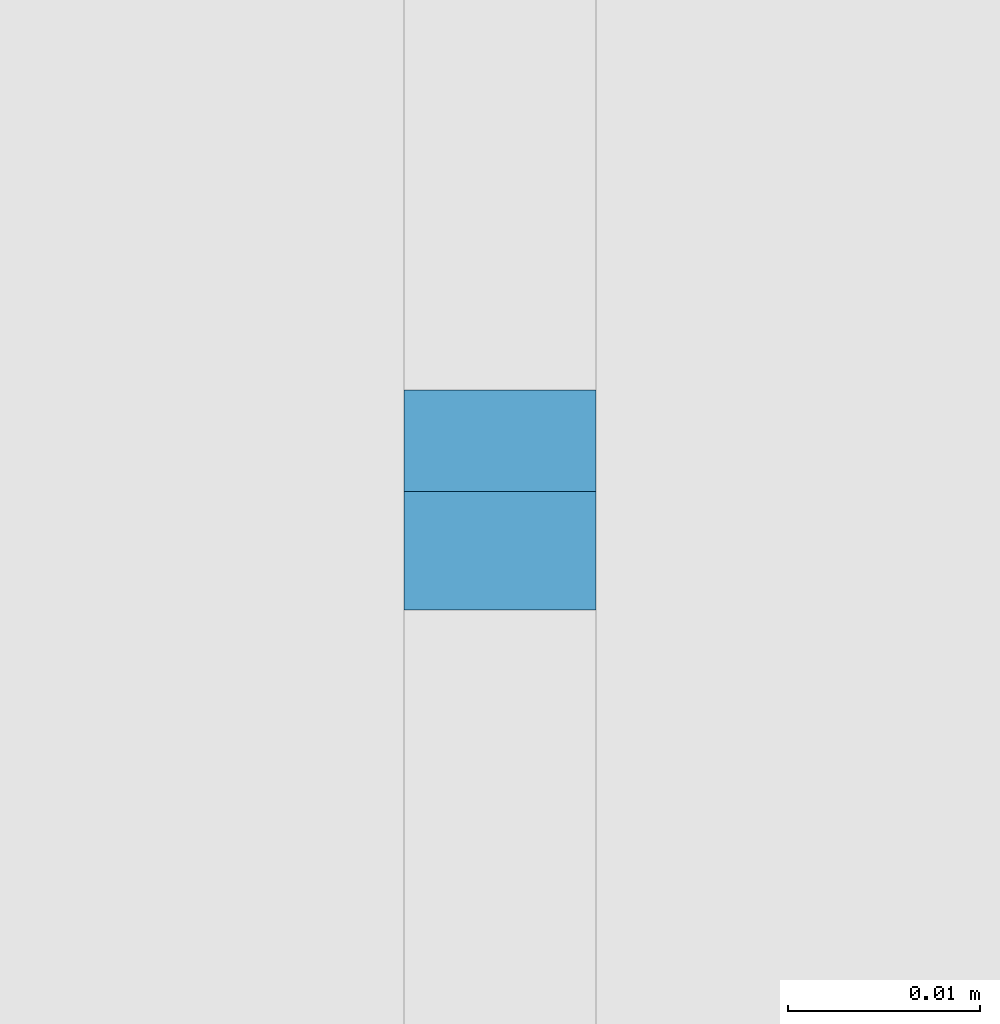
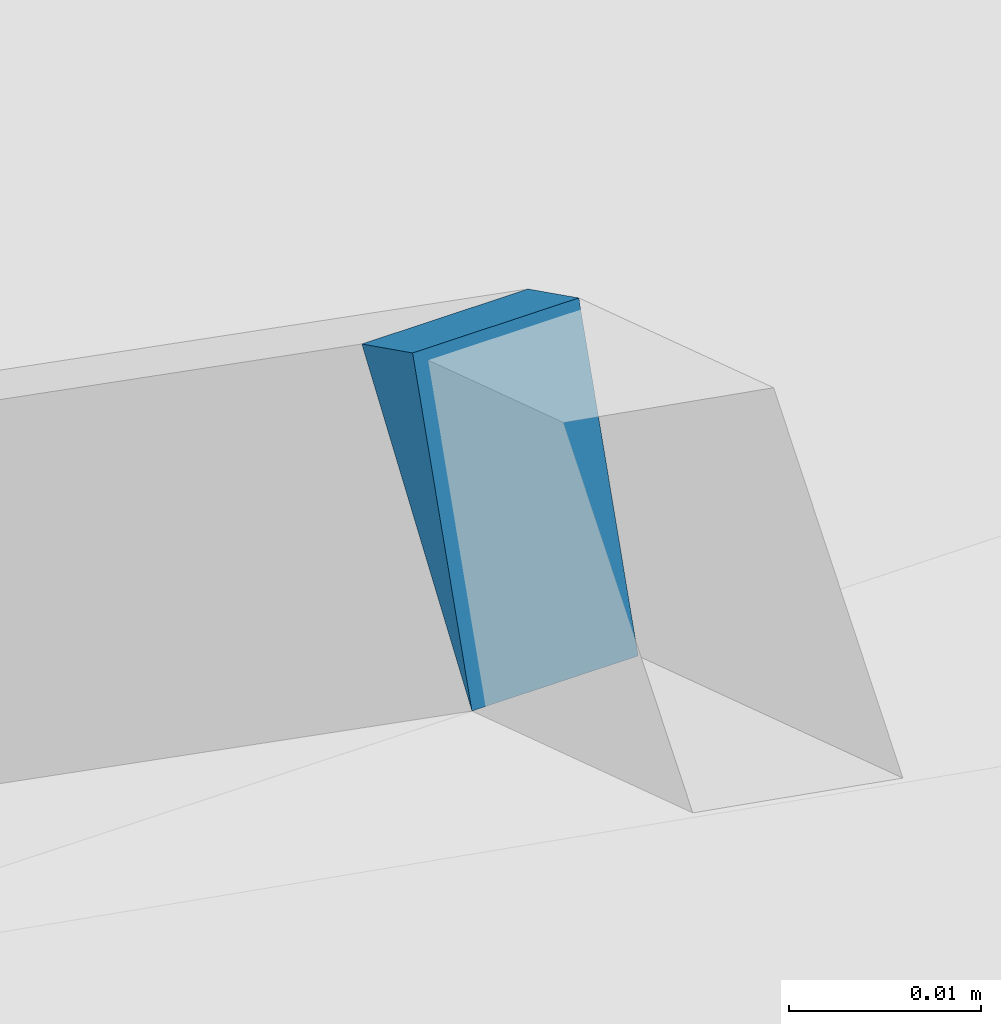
# One storey, part 349 of 583: 1 slab.
"""IFC2X3 building model written with IfcOpenShell, lengths in metres."""

from ifc_helpers import new_model, entity, si_unit, converted_unit, derived_unit, money_unit, direction, frame, origin_with_axes, place, context, subcontext, project, spatial, faceted_brep, material, type_object, element, save


model = new_model("IFC2X3")

# Units and contexts
model_context = context("Model", 3, precision=1e-05, world=origin_with_axes(), true_north=direction((0.0, 1.0)))
body_context = subcontext(model_context, "Body", "Model", "MODEL_VIEW", scale=1.0)
ifc_project = project(units=[si_unit("LENGTHUNIT", "METRE"), si_unit("AREAUNIT", "SQUARE_METRE"), si_unit("VOLUMEUNIT", "CUBIC_METRE"), si_unit("ABSORBEDDOSEUNIT", "GRAY"), si_unit("AMOUNTOFSUBSTANCEUNIT", "MOLE"), si_unit("DOSEEQUIVALENTUNIT", "SIEVERT"), si_unit("ELECTRICCAPACITANCEUNIT", "FARAD"), si_unit("ELECTRICCHARGEUNIT", "COULOMB"), si_unit("ELECTRICCONDUCTANCEUNIT", "SIEMENS"), si_unit("ELECTRICCURRENTUNIT", "AMPERE"), si_unit("ELECTRICRESISTANCEUNIT", "OHM"), si_unit("ELECTRICVOLTAGEUNIT", "VOLT"), si_unit("ENERGYUNIT", "JOULE"), si_unit("FORCEUNIT", "NEWTON"), si_unit("FREQUENCYUNIT", "HERTZ"), si_unit("ILLUMINANCEUNIT", "LUX"), si_unit("INDUCTANCEUNIT", "HENRY"), si_unit("LUMINOUSFLUXUNIT", "LUMEN"), si_unit("LUMINOUSINTENSITYUNIT", "CANDELA"), si_unit("MAGNETICFLUXDENSITYUNIT", "TESLA"), si_unit("MAGNETICFLUXUNIT", "WEBER"), si_unit("MASSUNIT", "GRAM"), converted_unit("PLANEANGLEUNIT", "degree", entity("IfcReal", 0.0174532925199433), si_unit("PLANEANGLEUNIT", "RADIAN"), dimensions=[0, 0, 0, 0, 0, 0, 0]), si_unit("POWERUNIT", "WATT"), si_unit("PRESSUREUNIT", "PASCAL"), si_unit("RADIOACTIVITYUNIT", "BECQUEREL"), si_unit("SOLIDANGLEUNIT", "STERADIAN"), si_unit("THERMODYNAMICTEMPERATUREUNIT", "KELVIN"), si_unit("TIMEUNIT", "SECOND"), derived_unit("ACCELERATIONUNIT", [(si_unit("LENGTHUNIT", "METRE"), 1), (si_unit("TIMEUNIT", "SECOND"), -2)]), derived_unit("ANGULARVELOCITYUNIT", [(converted_unit("PLANEANGLEUNIT", "degree", entity("IfcReal", 0.0174532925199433), si_unit("PLANEANGLEUNIT", "RADIAN"), dimensions=[0, 0, 0, 0, 0, 0, 0]), 1), (si_unit("TIMEUNIT", "SECOND"), -1)]), derived_unit("CURVATUREUNIT", [(converted_unit("PLANEANGLEUNIT", "degree", entity("IfcReal", 0.0174532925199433), si_unit("PLANEANGLEUNIT", "RADIAN"), dimensions=[0, 0, 0, 0, 0, 0, 0]), 1), (si_unit("LENGTHUNIT", "METRE"), -1)]), derived_unit("DYNAMICVISCOSITYUNIT", [(si_unit("PRESSUREUNIT", "PASCAL"), 1), (si_unit("TIMEUNIT", "SECOND"), 1)]), derived_unit("HEATFLUXDENSITYUNIT", [(si_unit("POWERUNIT", "WATT"), 1), (si_unit("LENGTHUNIT", "METRE"), -2)]), derived_unit("HEATINGVALUEUNIT", [(si_unit("ENERGYUNIT", "JOULE"), 1), (si_unit("MASSUNIT", "GRAM"), -1)]), derived_unit("INTEGERCOUNTRATEUNIT", [(si_unit("TIMEUNIT", "SECOND"), -1)]), derived_unit("IONCONCENTRATIONUNIT", [(si_unit("MASSUNIT", "GRAM"), 1), (si_unit("VOLUMEUNIT", "CUBIC_METRE"), -1)]), derived_unit("ISOTHERMALMOISTURECAPACITYUNIT", [(si_unit("VOLUMEUNIT", "CUBIC_METRE"), 1), (si_unit("MASSUNIT", "GRAM"), -1)]), derived_unit("KINEMATICVISCOSITYUNIT", [(si_unit("AREAUNIT", "SQUARE_METRE"), 1), (si_unit("TIMEUNIT", "SECOND"), -1)]), derived_unit("LINEARFORCEUNIT", [(si_unit("FORCEUNIT", "NEWTON"), 1), (si_unit("LENGTHUNIT", "METRE"), -1)]), derived_unit("LINEARMOMENTUNIT", [(si_unit("FORCEUNIT", "NEWTON"), 1), (si_unit("LENGTHUNIT", "METRE"), -1)]), derived_unit("LINEARSTIFFNESSUNIT", [(si_unit("FORCEUNIT", "NEWTON"), 1), (si_unit("LENGTHUNIT", "METRE"), -1)]), derived_unit("LINEARVELOCITYUNIT", [(si_unit("LENGTHUNIT", "METRE"), 1), (si_unit("TIMEUNIT", "SECOND"), -1)]), derived_unit("LUMINOUSINTENSITYDISTRIBUTIONUNIT", [(si_unit("LUMINOUSINTENSITYUNIT", "CANDELA"), 1), (si_unit("LUMINOUSFLUXUNIT", "LUMEN"), -1)]), derived_unit("MASSDENSITYUNIT", [(si_unit("MASSUNIT", "GRAM"), 1), (si_unit("VOLUMEUNIT", "CUBIC_METRE"), -1)]), derived_unit("MASSFLOWRATEUNIT", [(si_unit("MASSUNIT", "GRAM"), 1), (si_unit("TIMEUNIT", "SECOND"), -1)]), derived_unit("MASSPERLENGTHUNIT", [(si_unit("MASSUNIT", "GRAM"), 1), (si_unit("LENGTHUNIT", "METRE"), -1)]), derived_unit("MODULUSOFELASTICITYUNIT", [(si_unit("FORCEUNIT", "NEWTON"), 1), (si_unit("AREAUNIT", "SQUARE_METRE"), -1)]), derived_unit("MODULUSOFLINEARSUBGRADEREACTIONUNIT", [(si_unit("FORCEUNIT", "NEWTON"), 1), (si_unit("LENGTHUNIT", "METRE"), -2)]), derived_unit("MODULUSOFROTATIONALSUBGRADEREACTIONUNIT", [(si_unit("FORCEUNIT", "NEWTON"), 1), (si_unit("LENGTHUNIT", "METRE"), 1)]), derived_unit("MODULUSOFSUBGRADEREACTIONUNIT", [(si_unit("FORCEUNIT", "NEWTON"), 1), (si_unit("VOLUMEUNIT", "CUBIC_METRE"), -1)]), derived_unit("MOISTUREDIFFUSIVITYUNIT", [(si_unit("VOLUMEUNIT", "CUBIC_METRE"), 1), (si_unit("TIMEUNIT", "SECOND"), -1)]), derived_unit("MOLECULARWEIGHTUNIT", [(si_unit("MASSUNIT", "GRAM"), 1), (si_unit("AMOUNTOFSUBSTANCEUNIT", "MOLE"), -1)]), derived_unit("PLANARFORCEUNIT", [(si_unit("FORCEUNIT", "NEWTON"), 1), (si_unit("LENGTHUNIT", "METRE"), -2)]), derived_unit("ROTATIONALFREQUENCYUNIT", [(si_unit("TIMEUNIT", "SECOND"), -1)]), derived_unit("ROTATIONALMASSUNIT", [(si_unit("MASSUNIT", "GRAM"), 1), (si_unit("LENGTHUNIT", "METRE"), 2)]), derived_unit("ROTATIONALSTIFFNESSUNIT", [(si_unit("FORCEUNIT", "NEWTON"), 1), (si_unit("LENGTHUNIT", "METRE"), 1), (converted_unit("PLANEANGLEUNIT", "degree", entity("IfcReal", 0.0174532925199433), si_unit("PLANEANGLEUNIT", "RADIAN"), dimensions=[0, 0, 0, 0, 0, 0, 0]), -1)]), derived_unit("SECTIONAREAINTEGRALUNIT", [(si_unit("LENGTHUNIT", "METRE"), 5)]), derived_unit("SECTIONMODULUSUNIT", [(si_unit("LENGTHUNIT", "METRE"), 3)]), derived_unit("SHEARMODULUSUNIT", [(si_unit("FORCEUNIT", "NEWTON"), 1), (si_unit("AREAUNIT", "SQUARE_METRE"), -1)]), derived_unit("SOUNDPOWERUNIT", [(si_unit("ENERGYUNIT", "JOULE"), 1), (si_unit("TIMEUNIT", "SECOND"), -1)]), derived_unit("SPECIFICHEATCAPACITYUNIT", [(si_unit("FORCEUNIT", "NEWTON"), 1), (si_unit("MASSUNIT", "GRAM"), -1), (si_unit("THERMODYNAMICTEMPERATUREUNIT", "KELVIN"), -1)]), derived_unit("TEMPERATUREGRADIENTUNIT", [(si_unit("THERMODYNAMICTEMPERATUREUNIT", "KELVIN"), 1), (si_unit("LENGTHUNIT", "METRE"), -1)]), derived_unit("THERMALADMITTANCEUNIT", [(si_unit("POWERUNIT", "WATT"), 1), (si_unit("AREAUNIT", "SQUARE_METRE"), -1), (si_unit("THERMODYNAMICTEMPERATUREUNIT", "KELVIN"), -1)]), derived_unit("THERMALCONDUCTANCEUNIT", [(si_unit("POWERUNIT", "WATT"), 1), (si_unit("LENGTHUNIT", "METRE"), -1), (si_unit("THERMODYNAMICTEMPERATUREUNIT", "KELVIN"), -1)]), derived_unit("THERMALEXPANSIONCOEFFICIENTUNIT", [(si_unit("THERMODYNAMICTEMPERATUREUNIT", "KELVIN"), -1)]), derived_unit("THERMALRESISTANCEUNIT", [(si_unit("AREAUNIT", "SQUARE_METRE"), 1), (si_unit("POWERUNIT", "WATT"), -1)]), derived_unit("THERMALTRANSMITTANCEUNIT", [(si_unit("POWERUNIT", "WATT"), 1), (si_unit("AREAUNIT", "SQUARE_METRE"), -1), (si_unit("THERMODYNAMICTEMPERATUREUNIT", "KELVIN"), -1)]), derived_unit("TORQUEUNIT", [(si_unit("FORCEUNIT", "NEWTON"), 1), (si_unit("LENGTHUNIT", "METRE"), 1)]), derived_unit("VAPORPERMEABILITYUNIT", [(si_unit("MASSUNIT", "GRAM"), 1), (si_unit("TIMEUNIT", "SECOND"), -1)]), derived_unit("VOLUMETRICFLOWRATEUNIT", [(si_unit("VOLUMEUNIT", "CUBIC_METRE"), 1), (si_unit("TIMEUNIT", "SECOND"), -1)]), derived_unit("WARPINGCONSTANTUNIT", [(si_unit("LENGTHUNIT", "METRE"), 6)]), derived_unit("WARPINGMOMENTUNIT", [(si_unit("FORCEUNIT", "NEWTON"), 1), (si_unit("LENGTHUNIT", "METRE"), 2)]), money_unit("GBP")], contexts=[model_context])

# Site, building, storey
site_placement = place(None, origin_with_axes())
site = spatial("IfcSite", under=ifc_project, at=site_placement, Name="Site", CompositionType="ELEMENT")
building_placement = place(site_placement, origin_with_axes())
building = spatial("IfcBuilding", under=site, at=building_placement, Name="Building01", CompositionType="ELEMENT")
storey_placement = place(building_placement, frame((0.0, 0.0, 20.78), z_axis=(0.0, 0.0, 1.0), x_axis=(1.0, 0.0, 0.0)))
storey = spatial("IfcBuildingStorey", under=building, at=storey_placement, Name="RL", CompositionType="ELEMENT", Elevation=20.78)

# Slab
ifc_material = material(Name="A_BSUK_Roofs")
slab_type = type_object("IfcSlabType", Name="A-FloorsSlabs A_BSUK_Slabs", PredefinedType="FLOOR")
slab_placement = place(storey_placement, frame((6.361475, 18.791933, 4.882123), z_axis=(0.0, 1.0, 0.0), x_axis=(1.0, 0.0, 0.0)))
element("IfcSlab", 1, at=slab_placement, inside=storey, type_object=slab_type, material=ifc_material, Name="A-FloorsSlabs A_BSUK_Slabs", ObjectType="A-FloorsSlabs A_BSUK_Slabs", context=body_context, shape_type="Brep", body=[
    faceted_brep([(0.0, -0.002638, -0.005291), (0.01, -0.002638, -0.005291), (0.01, 0.0, 0.0), (0.0, 0.0, 0.0), (0.0, 0.016383, -0.011472), (0.01, 0.016383, -0.011472)], [[[0, 1, 2, 3]], [[4, 5, 1, 0]], [[3, 2, 5, 4]], [[1, 5, 2]], [[3, 4, 0]]]),
])

save(model, "model.ifc")
